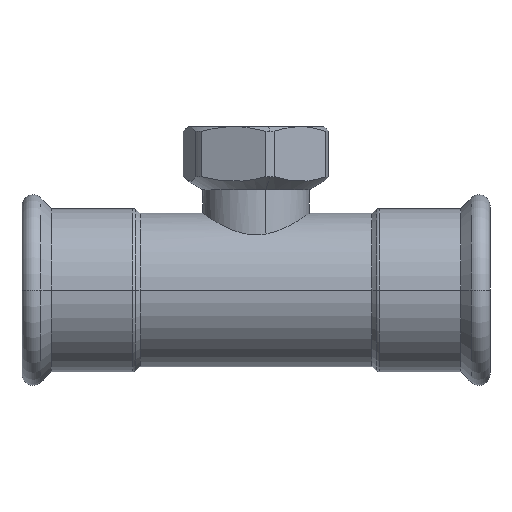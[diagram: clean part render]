
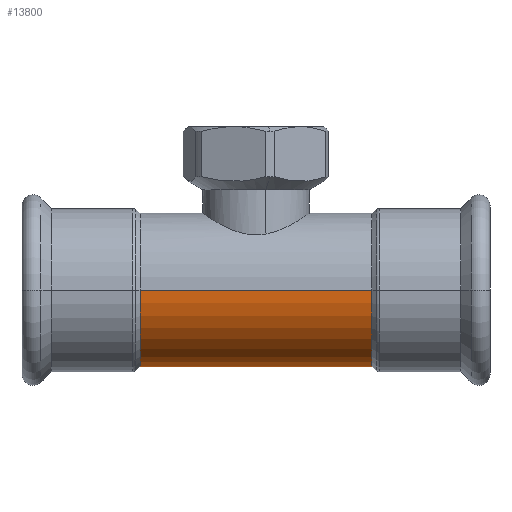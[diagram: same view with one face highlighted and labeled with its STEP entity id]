
A CAD part, front view. The second image highlights one B-rep face of the part: STEP entity #13800.
In plain terms, the highlighted cylindrical face has radius 38.05 mm (diameter 76.1 mm), a partial arc.
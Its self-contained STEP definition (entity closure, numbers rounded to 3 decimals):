
#2300=CARTESIAN_POINT('',(4.5,-38.05,0.));
#2310=VERTEX_POINT('',#2300);
#2490=CARTESIAN_POINT('',(4.5,38.05,0.));
#2500=VERTEX_POINT('',#2490);
#2530=CARTESIAN_POINT('',(4.5,0.,0.));
#2540=DIRECTION('',(1.,0.,0.));
#2550=DIRECTION('',(0.,1.,0.));
#2560=AXIS2_PLACEMENT_3D('',#2530,#2540,#2550);
#2570=CIRCLE('',#2560,38.05);
#2580=EDGE_CURVE('',#2310,#2500,#2570,.T.);
#13490=CARTESIAN_POINT('',(4.5,0.,0.));
#13500=DIRECTION('',(1.,0.,0.));
#13510=DIRECTION('',(0.,1.,0.));
#13520=AXIS2_PLACEMENT_3D('',#13490,#13500,#13510);
#13530=CYLINDRICAL_SURFACE('',#13520,38.05);
#13540=CARTESIAN_POINT('',(4.5,-38.05,0.));
#13550=DIRECTION('',(1.,0.,0.));
#13560=VECTOR('',#13550,1.);
#13570=LINE('',#13540,#13560);
#13580=CARTESIAN_POINT('',(-110.5,-38.05,0.));
#13590=VERTEX_POINT('',#13580);
#13600=EDGE_CURVE('',#13590,#2310,#13570,.T.);
#13610=ORIENTED_EDGE('',*,*,#13600,.F.);
#13620=ORIENTED_EDGE('',*,*,#2580,.F.);
#13630=CARTESIAN_POINT('',(4.5,38.05,0.));
#13640=DIRECTION('',(1.,0.,0.));
#13650=VECTOR('',#13640,1.);
#13660=LINE('',#13630,#13650);
#13670=CARTESIAN_POINT('',(-110.5,38.05,0.));
#13680=VERTEX_POINT('',#13670);
#13690=EDGE_CURVE('',#13680,#2500,#13660,.T.);
#13700=ORIENTED_EDGE('',*,*,#13690,.T.);
#13710=CARTESIAN_POINT('',(-110.5,0.,0.));
#13720=DIRECTION('',(1.,0.,0.));
#13730=DIRECTION('',(0.,1.,0.));
#13740=AXIS2_PLACEMENT_3D('',#13710,#13720,#13730);
#13750=CIRCLE('',#13740,38.05);
#13760=EDGE_CURVE('',#13590,#13680,#13750,.T.);
#13770=ORIENTED_EDGE('',*,*,#13760,.T.);
#13780=EDGE_LOOP('',(#13770,#13700,#13620,#13610));
#13790=FACE_OUTER_BOUND('',#13780,.T.);
#13800=ADVANCED_FACE('',(#13790),#13530,.T.);
